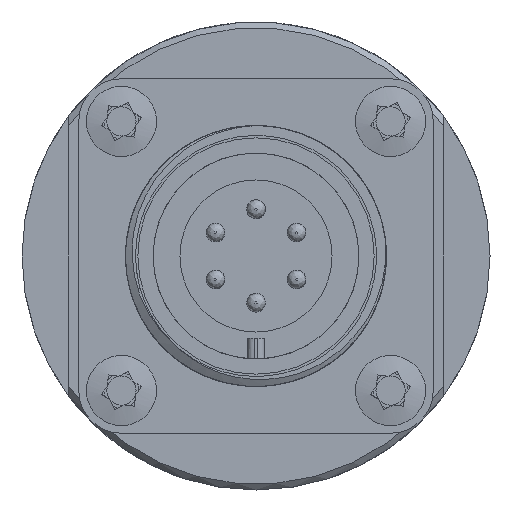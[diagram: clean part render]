
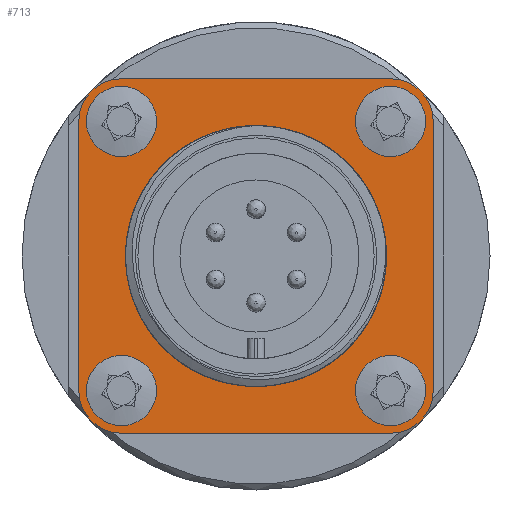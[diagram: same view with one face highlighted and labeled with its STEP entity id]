
A CAD part, front view. The second image highlights one B-rep face of the part: STEP entity #713.
In plain terms, the highlighted planar face has unit normal (0, -1, 0) as drawn and (-1, 0, 0) by its records, which use the part's own axes.
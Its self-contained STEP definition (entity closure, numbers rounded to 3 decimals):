
#713 = ADVANCED_FACE( '', ( #1412, #1413, #1414, #1415, #1416, #1417 ), #1418, .F. );
#1412 = FACE_BOUND( '', #6613, .T. );
#1413 = FACE_BOUND( '', #6614, .T. );
#1414 = FACE_OUTER_BOUND( '', #6615, .T. );
#1415 = FACE_BOUND( '', #6616, .T. );
#1416 = FACE_BOUND( '', #6617, .T. );
#1417 = FACE_BOUND( '', #6618, .T. );
#1418 = PLANE( '', #6619 );
#6613 = EDGE_LOOP( '', ( #7903 ) );
#6614 = EDGE_LOOP( '', ( #7904 ) );
#6615 = EDGE_LOOP( '', ( #7905, #7906, #7907, #7908, #7909, #7910, #7911, #7912 ) );
#6616 = EDGE_LOOP( '', ( #7913 ) );
#6617 = EDGE_LOOP( '', ( #7914 ) );
#6618 = EDGE_LOOP( '', ( #7915 ) );
#6619 = AXIS2_PLACEMENT_3D( '', #7916, #7917, #7918 );
#7903 = ORIENTED_EDGE( '', *, *, #8462, .T. );
#7904 = ORIENTED_EDGE( '', *, *, #8421, .T. );
#7905 = ORIENTED_EDGE( '', *, *, #8514, .F. );
#7906 = ORIENTED_EDGE( '', *, *, #8102, .F. );
#7907 = ORIENTED_EDGE( '', *, *, #8379, .F. );
#7908 = ORIENTED_EDGE( '', *, *, #8500, .F. );
#7909 = ORIENTED_EDGE( '', *, *, #8223, .F. );
#7910 = ORIENTED_EDGE( '', *, *, #8120, .F. );
#7911 = ORIENTED_EDGE( '', *, *, #8479, .F. );
#7912 = ORIENTED_EDGE( '', *, *, #8520, .F. );
#7913 = ORIENTED_EDGE( '', *, *, #8450, .T. );
#7914 = ORIENTED_EDGE( '', *, *, #8239, .T. );
#7915 = ORIENTED_EDGE( '', *, *, #8484, .T. );
#7916 = CARTESIAN_POINT( '', ( -2.4, -11.5, 11.5 ) );
#7917 = DIRECTION( '', ( 1., 0., 0. ) );
#7918 = DIRECTION( '', ( 0., 1., 0. ) );
#8102 = EDGE_CURVE( '', #8629, #8631, #8632, .T. );
#8120 = EDGE_CURVE( '', #8661, #8663, #8664, .T. );
#8223 = EDGE_CURVE( '', #8663, #8835, #8836, .T. );
#8239 = EDGE_CURVE( '', #8861, #8861, #8862, .T. );
#8379 = EDGE_CURVE( '', #9074, #8629, #9076, .T. );
#8421 = EDGE_CURVE( '', #9138, #9138, #9139, .T. );
#8450 = EDGE_CURVE( '', #9177, #9177, #9178, .T. );
#8462 = EDGE_CURVE( '', #9194, #9194, #9195, .T. );
#8479 = EDGE_CURVE( '', #9215, #8661, #9217, .T. );
#8484 = EDGE_CURVE( '', #9222, #9222, #9223, .T. );
#8500 = EDGE_CURVE( '', #8835, #9074, #9244, .T. );
#8514 = EDGE_CURVE( '', #8631, #9262, #9263, .T. );
#8520 = EDGE_CURVE( '', #9262, #9215, #9270, .T. );
#8629 = VERTEX_POINT( '', #9396 );
#8631 = VERTEX_POINT( '', #9399 );
#8632 = LINE( '', #9400, #9401 );
#8661 = VERTEX_POINT( '', #9566 );
#8663 = VERTEX_POINT( '', #9569 );
#8664 = LINE( '', #9570, #9571 );
#8835 = VERTEX_POINT( '', #10842 );
#8836 = CIRCLE( '', #10843, 3.65 );
#8861 = VERTEX_POINT( '', #10915 );
#8862 = CIRCLE( '', #10916, 1.5 );
#9074 = VERTEX_POINT( '', #12214 );
#9076 = CIRCLE( '', #12217, 3.65 );
#9138 = VERTEX_POINT( '', #12329 );
#9139 = CIRCLE( '', #12330, 1.5 );
#9177 = VERTEX_POINT( '', #12622 );
#9178 = CIRCLE( '', #12623, 1.5 );
#9194 = VERTEX_POINT( '', #12641 );
#9195 = CIRCLE( '', #12642, 11.15 );
#9215 = VERTEX_POINT( '', #12995 );
#9217 = CIRCLE( '', #12998, 3.65 );
#9222 = VERTEX_POINT( '', #13005 );
#9223 = CIRCLE( '', #13006, 1.5 );
#9244 = LINE( '', #13070, #13071 );
#9262 = VERTEX_POINT( '', #13096 );
#9263 = CIRCLE( '', #13097, 3.65 );
#9270 = LINE( '', #13105, #13106 );
#9396 = CARTESIAN_POINT( '', ( -2.4, 11.5, 15.15 ) );
#9399 = CARTESIAN_POINT( '', ( -2.4, -11.5, 15.15 ) );
#9400 = CARTESIAN_POINT( '', ( -2.4, -11.5, 15.15 ) );
#9401 = VECTOR( '', #13245, 1000. );
#9566 = CARTESIAN_POINT( '', ( -2.4, -11.5, -15.15 ) );
#9569 = CARTESIAN_POINT( '', ( -2.4, 11.5, -15.15 ) );
#9570 = CARTESIAN_POINT( '', ( -2.4, -11.5, -15.15 ) );
#9571 = VECTOR( '', #13264, 1000. );
#10842 = CARTESIAN_POINT( '', ( -2.4, 15.15, -11.5 ) );
#10843 = AXIS2_PLACEMENT_3D( '', #13386, #13387, #13388 );
#10915 = CARTESIAN_POINT( '', ( -2.4, 13., -11.5 ) );
#10916 = AXIS2_PLACEMENT_3D( '', #13405, #13406, #13407 );
#12214 = CARTESIAN_POINT( '', ( -2.4, 15.15, 11.5 ) );
#12217 = AXIS2_PLACEMENT_3D( '', #13598, #13599, #13600 );
#12329 = CARTESIAN_POINT( '', ( -2.4, -10., 11.5 ) );
#12330 = AXIS2_PLACEMENT_3D( '', #13653, #13654, #13655 );
#12622 = CARTESIAN_POINT( '', ( -2.4, 13., 11.5 ) );
#12623 = AXIS2_PLACEMENT_3D( '', #13674, #13675, #13676 );
#12641 = CARTESIAN_POINT( '', ( -2.4, 11.15, 0. ) );
#12642 = AXIS2_PLACEMENT_3D( '', #13688, #13689, #13690 );
#12995 = CARTESIAN_POINT( '', ( -2.4, -15.15, -11.5 ) );
#12998 = AXIS2_PLACEMENT_3D( '', #13707, #13708, #13709 );
#13005 = CARTESIAN_POINT( '', ( -2.4, -10., -11.5 ) );
#13006 = AXIS2_PLACEMENT_3D( '', #13712, #13713, #13714 );
#13070 = CARTESIAN_POINT( '', ( -2.4, 15.15, 11.5 ) );
#13071 = VECTOR( '', #13727, 1000. );
#13096 = CARTESIAN_POINT( '', ( -2.4, -15.15, 11.5 ) );
#13097 = AXIS2_PLACEMENT_3D( '', #13738, #13739, #13740 );
#13105 = CARTESIAN_POINT( '', ( -2.4, -15.15, 11.5 ) );
#13106 = VECTOR( '', #13745, 1000. );
#13245 = DIRECTION( '', ( 0., -1., 0. ) );
#13264 = DIRECTION( '', ( 0., 1., 0. ) );
#13386 = CARTESIAN_POINT( '', ( -2.4, 11.5, -11.5 ) );
#13387 = DIRECTION( '', ( 1., 0., 0. ) );
#13388 = DIRECTION( '', ( 0., -1., 0. ) );
#13405 = CARTESIAN_POINT( '', ( -2.4, 11.5, -11.5 ) );
#13406 = DIRECTION( '', ( 1., 0., 0. ) );
#13407 = DIRECTION( '', ( 0., 1., 0. ) );
#13598 = CARTESIAN_POINT( '', ( -2.4, 11.5, 11.5 ) );
#13599 = DIRECTION( '', ( 1., 0., 0. ) );
#13600 = DIRECTION( '', ( 0., 1., 0. ) );
#13653 = CARTESIAN_POINT( '', ( -2.4, -11.5, 11.5 ) );
#13654 = DIRECTION( '', ( 1., 0., 0. ) );
#13655 = DIRECTION( '', ( 0., 1., 0. ) );
#13674 = CARTESIAN_POINT( '', ( -2.4, 11.5, 11.5 ) );
#13675 = DIRECTION( '', ( 1., 0., 0. ) );
#13676 = DIRECTION( '', ( 0., 1., 0. ) );
#13688 = CARTESIAN_POINT( '', ( -2.4, 0., 0. ) );
#13689 = DIRECTION( '', ( 1., 0., 0. ) );
#13690 = DIRECTION( '', ( 0., 1., 0. ) );
#13707 = CARTESIAN_POINT( '', ( -2.4, -11.5, -11.5 ) );
#13708 = DIRECTION( '', ( 1., 0., 0. ) );
#13709 = DIRECTION( '', ( 0., 1., 0. ) );
#13712 = CARTESIAN_POINT( '', ( -2.4, -11.5, -11.5 ) );
#13713 = DIRECTION( '', ( 1., 0., 0. ) );
#13714 = DIRECTION( '', ( 0., 1., 0. ) );
#13727 = DIRECTION( '', ( 0., 0., 1. ) );
#13738 = CARTESIAN_POINT( '', ( -2.4, -11.5, 11.5 ) );
#13739 = DIRECTION( '', ( 1., 0., 0. ) );
#13740 = DIRECTION( '', ( 0., 1., 0. ) );
#13745 = DIRECTION( '', ( 0., 0., -1. ) );
